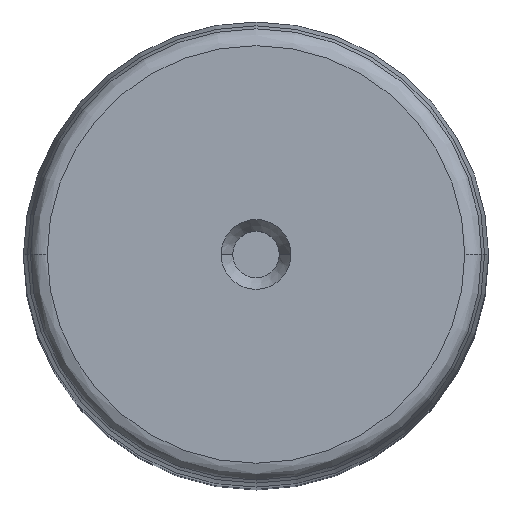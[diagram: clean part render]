
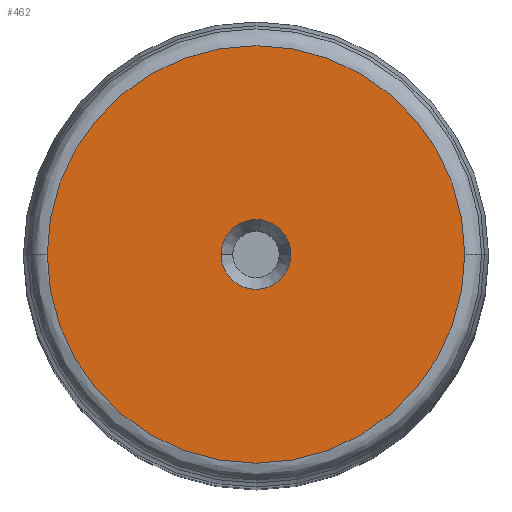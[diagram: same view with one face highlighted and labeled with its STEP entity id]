
A CAD part, top view. The second image highlights one B-rep face of the part: STEP entity #462.
In plain terms, the highlighted planar face has unit normal (0, 0, 1).
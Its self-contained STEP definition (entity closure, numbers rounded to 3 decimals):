
#97=VERTEX_POINT(' ',#98);
#98=CARTESIAN_POINT('',(-9.,0.,450.));
#99=VERTEX_POINT(' ',#100);
#100=CARTESIAN_POINT('',(9.,0.,450.));
#101=VERTEX_POINT(' ',#102);
#102=CARTESIAN_POINT('',(-53.868,0.,450.));
#103=VERTEX_POINT(' ',#104);
#104=CARTESIAN_POINT('',(53.868,0.,450.));
#180=CIRCLE('',#181,9.);
#181=AXIS2_PLACEMENT_3D('',#182,#183,#184);
#182=CARTESIAN_POINT('',(0.,0.,450.));
#183=DIRECTION('',(0.,0.,-1.));
#184=DIRECTION('',(0.,1.,0.));
#185=EDGE_CURVE(' ',#99,#97,#180,.T.);
#191=CIRCLE('',#192,9.);
#192=AXIS2_PLACEMENT_3D('',#193,#194,#195);
#193=CARTESIAN_POINT('',(0.,0.,450.));
#194=DIRECTION('',(0.,0.,-1.));
#195=DIRECTION('',(0.,-1.,0.));
#196=EDGE_CURVE(' ',#97,#99,#191,.T.);
#197=CIRCLE('',#198,53.868);
#198=AXIS2_PLACEMENT_3D('',#199,#200,#201);
#199=CARTESIAN_POINT('',(0.,0.,450.));
#200=DIRECTION('',(0.,0.,-1.));
#201=DIRECTION('',(0.,1.,0.));
#202=EDGE_CURVE(' ',#103,#101,#197,.T.);
#203=CIRCLE('',#204,53.868);
#204=AXIS2_PLACEMENT_3D('',#205,#206,#207);
#205=CARTESIAN_POINT('',(0.,0.,450.));
#206=DIRECTION('',(0.,0.,-1.));
#207=DIRECTION('',(0.,-1.,0.));
#208=EDGE_CURVE(' ',#101,#103,#203,.T.);
#449=ORIENTED_EDGE('',*,*,#202,.F.);
#450=ORIENTED_EDGE('',*,*,#208,.F.);
#451=EDGE_LOOP('',(#449,#450));
#452=FACE_OUTER_BOUND('',#451,.T.);
#453=ORIENTED_EDGE('',*,*,#196,.T.);
#454=ORIENTED_EDGE('',*,*,#185,.T.);
#455=EDGE_LOOP('',(#453,#454));
#456=FACE_BOUND('',#455,.T.);
#457=PLANE('',#458);
#458=AXIS2_PLACEMENT_3D('',#459,#460,#461);
#459=CARTESIAN_POINT('',(0.,0.,450.));
#460=DIRECTION('',(0.,0.,1.));
#461=DIRECTION('',(0.,1.,0.));
#462=ADVANCED_FACE('',(#452,#456),#457,.T.);
